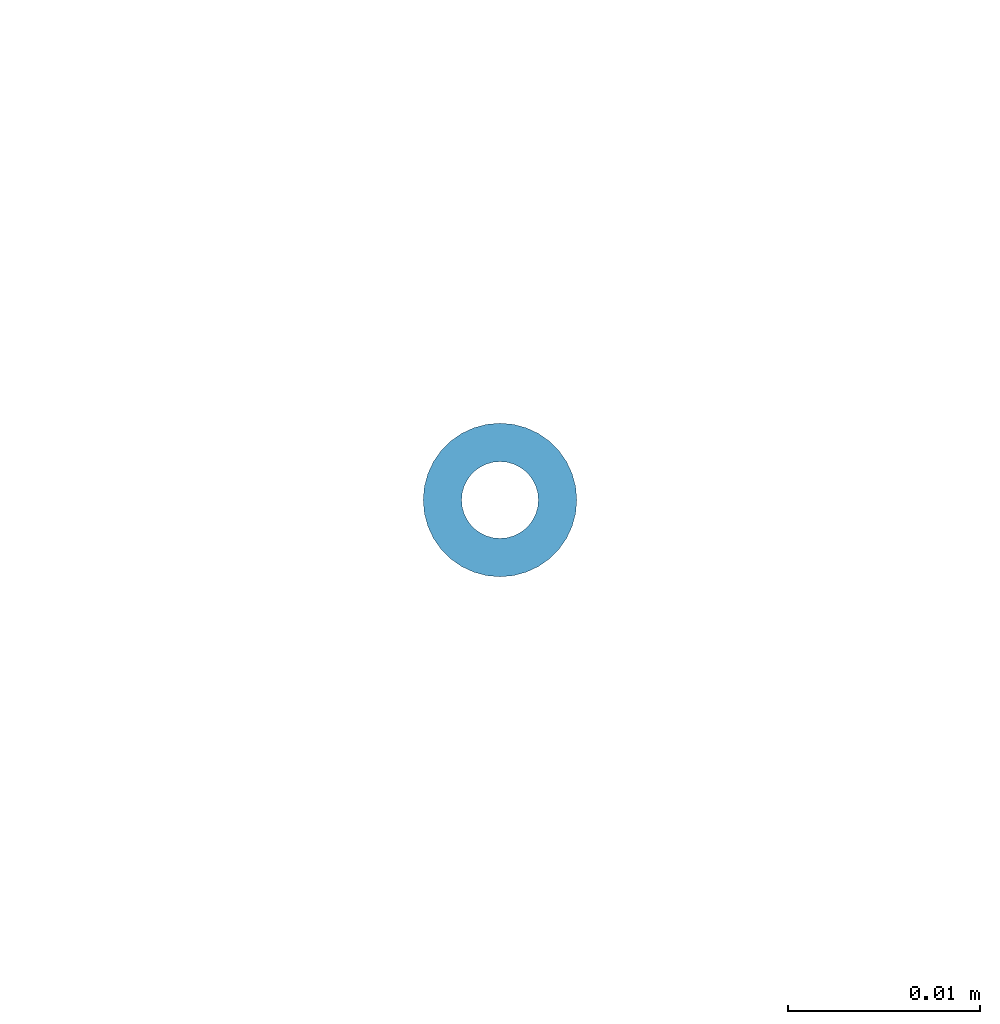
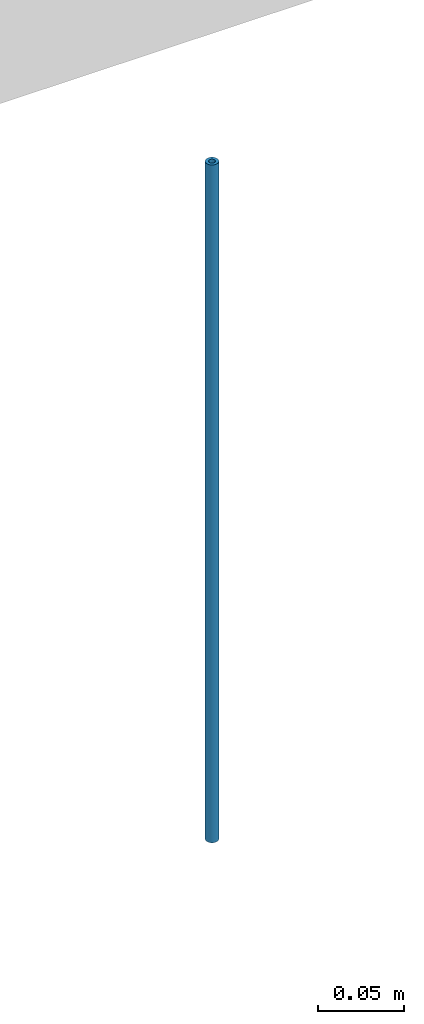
# One storey, part 12 of 23: 1 column.
"""IFC2X3 building model written with IfcOpenShell, lengths in millimetres."""

from ifc_helpers import new_model, entity, si_unit, converted_unit, derived_unit, direction, frame, origin_with_axes, place, context, subcontext, project, spatial, faceted_brep, material, type_object, element, save


model = new_model("IFC2X3")

# Units and contexts
model_context = context("Model", 3, precision=0.01, world=frame((0.0, 4.29681676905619e-09, 0.0)), true_north=direction((4.01073788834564e-13, 1.0)))
plan_context = context("Plan", 3, precision=0.01, world=frame((0.0, 4.29681676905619e-09, 0.0)), true_north=direction((4.01073788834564e-13, 1.0)))
body_context = subcontext(model_context, "Body", "Model", "MODEL_VIEW")
ifc_project = project(units=[converted_unit("PLANEANGLEUNIT", "DEGREE", entity("IfcPositiveLengthMeasure", 0.0174532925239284), si_unit("PLANEANGLEUNIT", "RADIAN"), dimensions=[0, 0, 0, 0, 0, 0, 0]), si_unit("AREAUNIT", "SQUARE_METRE"), si_unit("LENGTHUNIT", "METRE", prefix="MILLI"), si_unit("MASSUNIT", "GRAM", prefix="KILO"), si_unit("POWERUNIT", "WATT"), si_unit("PRESSUREUNIT", "PASCAL", prefix="KILO"), si_unit("FORCEUNIT", "NEWTON", prefix="KILO"), si_unit("ELECTRICVOLTAGEUNIT", "VOLT"), si_unit("ELECTRICCURRENTUNIT", "AMPERE"), si_unit("THERMODYNAMICTEMPERATUREUNIT", "DEGREE_CELSIUS"), si_unit("TIMEUNIT", "SECOND"), si_unit("VOLUMEUNIT", "CUBIC_METRE"), derived_unit("LINEARVELOCITYUNIT", [(si_unit("LENGTHUNIT", "METRE"), 1), (si_unit("TIMEUNIT", "SECOND"), -1)]), derived_unit("VOLUMETRICFLOWRATEUNIT", [(si_unit("VOLUMEUNIT", "CUBIC_METRE"), 1), (si_unit("TIMEUNIT", "SECOND"), -1)]), derived_unit("THERMALTRANSMITTANCEUNIT", [(si_unit("POWERUNIT", "WATT"), 1), (si_unit("THERMODYNAMICTEMPERATUREUNIT", "KELVIN"), -1), (si_unit("AREAUNIT", "SQUARE_METRE"), -1)]), derived_unit("SOUNDPRESSUREUNIT", [(si_unit("PRESSUREUNIT", "PASCAL"), 1)])], contexts=[model_context, plan_context])

# Site, building, storey
site_placement = place(None, origin_with_axes())
site = spatial("IfcSite", under=ifc_project, at=site_placement, Name="ENGM", CompositionType="ELEMENT")
building_placement = place(site_placement, origin_with_axes())
building = spatial("IfcBuilding", under=site, at=building_placement, Name="TI", CompositionType="ELEMENT")
storey_placement = place(building_placement, frame((0.0, 0.0, 213700.0), z_axis=(0.0, 0.0, 1.0), x_axis=(1.0, 0.0, 0.0)))
storey = spatial("IfcBuildingStorey", under=building, at=storey_placement, Name="Nivå G - 2,0m", CompositionType="ELEMENT", Elevation=213700.0)

# Column
ifc_material = material(Name="_NSW Stål")
column_type = type_object("IfcColumnType", Name="A241 - GRID-oppheng:A241 - GRID-oppheng - ø10 mm", PredefinedType="COLUMN", material=ifc_material)
column_placement = place(storey_placement, frame((590600.000000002, 577100.0, -213700.0), z_axis=(0.0, 0.0, 1.0), x_axis=(1.0, 0.0, 0.0)))
element("IfcColumn", 1, at=column_placement, inside=storey, type_object=column_type, Name="A241 - GRID-oppheng:A241 - GRID-oppheng - ø10 mm", ObjectType="A241 - GRID-oppheng:A241 - GRID-oppheng - ø10 mm", context=body_context, shape_type="Brep", body=[
    faceted_brep([(2.00000000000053, 2.95521980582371e-15, 214400.0), (1.96961550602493, -0.347296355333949, 214400.0), (1.96961550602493, -0.347296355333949, 213920.0), (2.00000000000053, 2.95521980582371e-15, 213920.0), (1.87938524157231, -0.684040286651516, 214400.0), (1.87938524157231, -0.684040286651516, 213920.0), (1.73205080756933, -1.00000000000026, 214400.0), (1.73205080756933, -1.00000000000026, 213920.0), (1.53208888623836, -1.28557521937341, 214400.0), (1.53208888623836, -1.28557521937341, 213920.0), (1.28557521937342, -1.53208888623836, 214400.0), (1.28557521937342, -1.53208888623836, 213920.0), (1.00000000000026, -1.73205080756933, 214400.0), (1.00000000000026, -1.73205080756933, 213920.0), (0.684040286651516, -1.87938524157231, 214400.0), (0.684040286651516, -1.87938524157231, 213920.0), (0.347296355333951, -1.96961550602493, 214400.0), (0.347296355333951, -1.96961550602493, 213920.0), (-2.38954857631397e-16, -2.00000000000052, 214400.0), (-2.38954857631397e-16, -2.00000000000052, 213920.0), (-0.347296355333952, -1.96961550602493, 214400.0), (-0.347296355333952, -1.96961550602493, 213920.0), (-0.684040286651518, -1.87938524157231, 214400.0), (-0.684040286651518, -1.87938524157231, 213920.0), (-1.00000000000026, -1.73205080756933, 214400.0), (-1.00000000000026, -1.73205080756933, 213920.0), (-1.28557521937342, -1.53208888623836, 214400.0), (-1.28557521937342, -1.53208888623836, 213920.0), (-1.53208888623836, -1.28557521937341, 214400.0), (-1.53208888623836, -1.28557521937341, 213920.0), (-1.73205080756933, -1.00000000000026, 214400.0), (-1.73205080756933, -1.00000000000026, 213920.0), (-1.87938524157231, -0.684040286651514, 214400.0), (-1.87938524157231, -0.684040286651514, 213920.0), (-1.96961550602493, -0.347296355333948, 214400.0), (-1.96961550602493, -0.347296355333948, 213920.0), (-2.00000000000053, 3.20014916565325e-15, 214400.0), (-2.00000000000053, 3.20014916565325e-15, 213920.0), (-1.96961550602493, 0.347296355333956, 214400.0), (-1.96961550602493, 0.347296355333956, 213920.0), (-1.87938524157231, 0.68404028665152, 214400.0), (-1.87938524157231, 0.68404028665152, 213920.0), (-1.73205080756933, 1.00000000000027, 214400.0), (-1.73205080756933, 1.00000000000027, 213920.0), (-1.53208888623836, 1.28557521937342, 214400.0), (-1.53208888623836, 1.28557521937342, 213920.0), (-1.28557521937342, 1.53208888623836, 214400.0), (-1.28557521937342, 1.53208888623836, 213920.0), (-1.00000000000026, 1.73205080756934, 214400.0), (-1.00000000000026, 1.73205080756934, 213920.0), (-0.684040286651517, 1.87938524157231, 214400.0), (-0.684040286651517, 1.87938524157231, 213920.0), (-0.347296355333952, 1.96961550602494, 214400.0), (-0.347296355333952, 1.96961550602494, 213920.0), (2.50903862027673e-16, 2.00000000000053, 214400.0), (2.50903862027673e-16, 2.00000000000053, 213920.0), (0.347296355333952, 1.96961550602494, 214400.0), (0.347296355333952, 1.96961550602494, 213920.0), (0.684040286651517, 1.87938524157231, 214400.0), (0.684040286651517, 1.87938524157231, 213920.0), (1.00000000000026, 1.73205080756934, 214400.0), (1.00000000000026, 1.73205080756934, 213920.0), (1.28557521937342, 1.53208888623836, 214400.0), (1.28557521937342, 1.53208888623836, 213920.0), (1.53208888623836, 1.28557521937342, 214400.0), (1.53208888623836, 1.28557521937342, 213920.0), (1.73205080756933, 1.00000000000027, 214400.0), (1.73205080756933, 1.00000000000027, 213920.0), (1.87938524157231, 0.68404028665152, 214400.0), (1.87938524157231, 0.68404028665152, 213920.0), (1.96961550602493, 0.347296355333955, 214400.0), (1.96961550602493, 0.347296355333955, 213920.0), (3.93923101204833, -0.694592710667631, 214400.0), (3.99999999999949, 2.95521980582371e-15, 214400.0), (3.99999999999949, 2.95521980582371e-15, 213920.0), (3.93923101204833, -0.694592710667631, 213920.0), (3.93923101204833, 0.694592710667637, 214400.0), (3.93923101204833, 0.694592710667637, 213920.0), (3.75877048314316, 1.3680805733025, 214400.0), (3.75877048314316, 1.3680805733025, 213920.0), (3.46410161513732, 1.99999999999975, 214400.0), (3.46410161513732, 1.99999999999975, 213920.0), (3.06417777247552, 2.57115043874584, 214400.0), (3.06417777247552, 2.57115043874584, 213920.0), (2.57115043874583, 3.06417777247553, 214400.0), (2.57115043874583, 3.06417777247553, 213920.0), (1.99999999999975, 3.46410161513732, 214400.0), (1.99999999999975, 3.46410161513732, 213920.0), (1.3680805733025, 3.75877048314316, 214400.0), (1.3680805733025, 3.75877048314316, 213920.0), (0.694592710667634, 3.93923101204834, 214400.0), (0.694592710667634, 3.93923101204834, 213920.0), (3.73368541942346e-16, 3.9999999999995, 214400.0), (3.73368541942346e-16, 3.9999999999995, 213920.0), (-0.694592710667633, 3.93923101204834, 214400.0), (-0.694592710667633, 3.93923101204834, 213920.0), (-1.3680805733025, 3.75877048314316, 214400.0), (-1.3680805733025, 3.75877048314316, 213920.0), (-1.99999999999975, 3.46410161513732, 214400.0), (-1.99999999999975, 3.46410161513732, 213920.0), (-2.57115043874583, 3.06417777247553, 214400.0), (-2.57115043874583, 3.06417777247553, 213920.0), (-3.06417777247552, 2.57115043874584, 214400.0), (-3.06417777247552, 2.57115043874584, 213920.0), (-3.46410161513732, 1.99999999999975, 214400.0), (-3.46410161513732, 1.99999999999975, 213920.0), (-3.75877048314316, 1.36808057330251, 214400.0), (-3.75877048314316, 1.36808057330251, 213920.0), (-3.93923101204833, 0.694592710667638, 214400.0), (-3.93923101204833, 0.694592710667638, 213920.0), (-3.99999999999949, 3.44507852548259e-15, 214400.0), (-3.99999999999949, 3.44507852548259e-15, 213920.0), (-3.93923101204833, -0.694592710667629, 214400.0), (-3.93923101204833, -0.694592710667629, 213920.0), (-3.75877048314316, -1.3680805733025, 214400.0), (-3.75877048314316, -1.3680805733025, 213920.0), (-3.46410161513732, -1.99999999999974, 214400.0), (-3.46410161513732, -1.99999999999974, 213920.0), (-3.06417777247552, -2.57115043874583, 214400.0), (-3.06417777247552, -2.57115043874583, 213920.0), (-2.57115043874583, -3.06417777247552, 214400.0), (-2.57115043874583, -3.06417777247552, 213920.0), (-1.99999999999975, -3.46410161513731, 214400.0), (-1.99999999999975, -3.46410161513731, 213920.0), (-1.3680805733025, -3.75877048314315, 214400.0), (-1.3680805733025, -3.75877048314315, 213920.0), (-0.694592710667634, -3.93923101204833, 214400.0), (-0.694592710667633, -3.93923101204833, 213920.0), (-6.06348897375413e-16, -3.99999999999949, 214400.0), (-6.06348897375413e-16, -3.99999999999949, 213920.0), (0.694592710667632, -3.93923101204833, 214400.0), (0.694592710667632, -3.93923101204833, 213920.0), (1.3680805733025, -3.75877048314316, 214400.0), (1.3680805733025, -3.75877048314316, 213920.0), (1.99999999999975, -3.46410161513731, 214400.0), (1.99999999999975, -3.46410161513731, 213920.0), (2.57115043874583, -3.06417777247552, 214400.0), (2.57115043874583, -3.06417777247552, 213920.0), (3.06417777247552, -2.57115043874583, 214400.0), (3.06417777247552, -2.57115043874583, 213920.0), (3.46410161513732, -1.99999999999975, 214400.0), (3.46410161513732, -1.99999999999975, 213920.0), (3.75877048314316, -1.3680805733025, 214400.0), (3.75877048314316, -1.3680805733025, 213920.0)], [[[0, 1, 2, 3]], [[1, 4, 5, 2]], [[4, 6, 7, 5]], [[6, 8, 9, 7]], [[8, 10, 11, 9]], [[10, 12, 13, 11]], [[12, 14, 15, 13]], [[14, 16, 17, 15]], [[16, 18, 19, 17]], [[18, 20, 21, 19]], [[20, 22, 23, 21]], [[22, 24, 25, 23]], [[24, 26, 27, 25]], [[26, 28, 29, 27]], [[28, 30, 31, 29]], [[30, 32, 33, 31]], [[32, 34, 35, 33]], [[34, 36, 37, 35]], [[36, 38, 39, 37]], [[38, 40, 41, 39]], [[40, 42, 43, 41]], [[42, 44, 45, 43]], [[44, 46, 47, 45]], [[46, 48, 49, 47]], [[48, 50, 51, 49]], [[50, 52, 53, 51]], [[52, 54, 55, 53]], [[54, 56, 57, 55]], [[56, 58, 59, 57]], [[58, 60, 61, 59]], [[60, 62, 63, 61]], [[62, 64, 65, 63]], [[64, 66, 67, 65]], [[66, 68, 69, 67]], [[68, 70, 71, 69]], [[70, 0, 3, 71]], [[72, 73, 74, 75]], [[73, 76, 77, 74]], [[76, 78, 79, 77]], [[78, 80, 81, 79]], [[80, 82, 83, 81]], [[82, 84, 85, 83]], [[84, 86, 87, 85]], [[86, 88, 89, 87]], [[88, 90, 91, 89]], [[90, 92, 93, 91]], [[92, 94, 95, 93]], [[94, 96, 97, 95]], [[96, 98, 99, 97]], [[98, 100, 101, 99]], [[100, 102, 103, 101]], [[102, 104, 105, 103]], [[104, 106, 107, 105]], [[106, 108, 109, 107]], [[108, 110, 111, 109]], [[110, 112, 113, 111]], [[112, 114, 115, 113]], [[114, 116, 117, 115]], [[116, 118, 119, 117]], [[118, 120, 121, 119]], [[120, 122, 123, 121]], [[122, 124, 125, 123]], [[124, 126, 127, 125]], [[126, 128, 129, 127]], [[128, 130, 131, 129]], [[130, 132, 133, 131]], [[132, 134, 135, 133]], [[134, 136, 137, 135]], [[136, 138, 139, 137]], [[138, 140, 141, 139]], [[140, 142, 143, 141]], [[142, 72, 75, 143]], [[75, 74, 77, 79, 81, 83, 85, 87, 89, 91, 93, 95, 97, 99, 101, 103, 105, 107, 109, 111, 113, 115, 117, 119, 121, 123, 125, 127, 129, 131, 133, 135, 137, 139, 141, 143], [3, 2, 5, 7, 9, 11, 13, 15, 17, 19, 21, 23, 25, 27, 29, 31, 33, 35, 37, 39, 41, 43, 45, 47, 49, 51, 53, 55, 57, 59, 61, 63, 65, 67, 69, 71]], [[142, 140, 138, 136, 134, 132, 130, 128, 126, 124, 122, 120, 118, 116, 114, 112, 110, 108, 106, 104, 102, 100, 98, 96, 94, 92, 90, 88, 86, 84, 82, 80, 78, 76, 73, 72], [70, 68, 66, 64, 62, 60, 58, 56, 54, 52, 50, 48, 46, 44, 42, 40, 38, 36, 34, 32, 30, 28, 26, 24, 22, 20, 18, 16, 14, 12, 10, 8, 6, 4, 1, 0]]], orient=[[False], [False], [False], [False], [False], [False], [False], [False], [False], [False], [False], [False], [False], [False], [False], [False], [False], [False], [False], [False], [False], [False], [False], [False], [False], [False], [False], [False], [False], [False], [False], [False], [False], [False], [False], [False], [False], [False], [False], [False], [False], [False], [False], [False], [False], [False], [False], [False], [False], [False], [False], [False], [False], [False], [False], [False], [False], [False], [False], [False], [False], [False], [False], [False], [False], [False], [False], [False], [False], [False], [False], [False], [False, False], [False, False]]),
])

save(model, "model.ifc")
